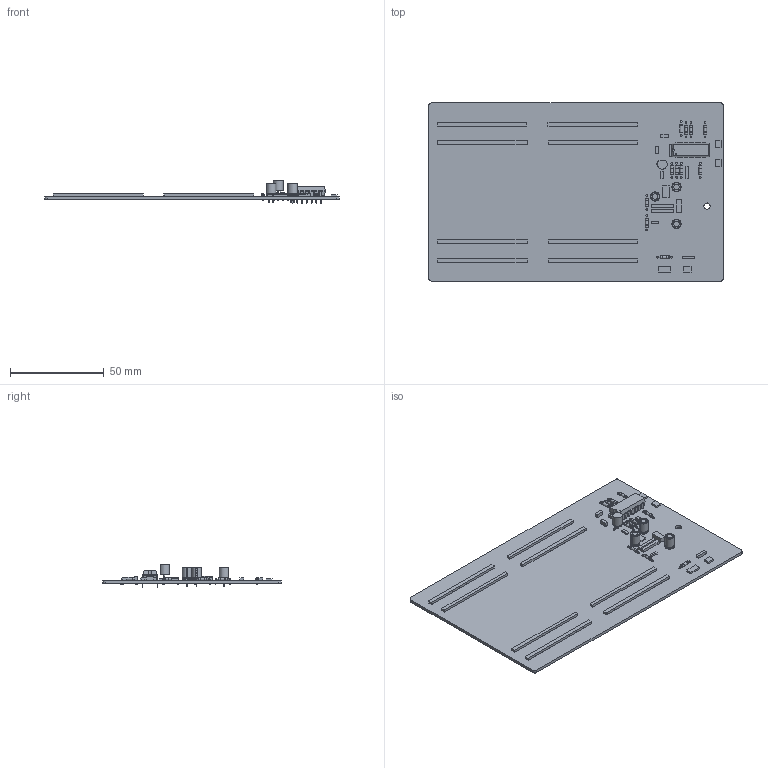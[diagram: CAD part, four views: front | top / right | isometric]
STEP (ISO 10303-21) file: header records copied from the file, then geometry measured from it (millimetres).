
FILE_DESCRIPTION(/* description */ (''),/* implementation_level */ '2;1');
FILE_NAME(/* name */ '622c7c7f-46cd-4ce4-a58c-9a74158d6b3d.stp',/* time_stamp */ '2022-10-23T09:07:28Z',/* author */ (''),/* organization */ (''),/* preprocessor_version */ 'ST-DEVELOPER v19.2',/* originating_system */ 'Autodesk Translation Framework v11.17.0.187',/* authorisation */ '');
FILE_SCHEMA (('AUTOMOTIVE_DESIGN { 1 0 10303 214 3 1 1 }'));
Length unit declared in the file: millimetre
Products named in the file (17): 622c7c7f-46cd-4ce4-a58c-9a74158d6b3d; PCB Component; Board; 10X02MTA; PE; 0,1 uF; 47 uF; 1N4148DO35-7; 10X03MTA; 4093N; TLLG4400; BC447; 0204/7; TO220L1; 1k; 0,1 uF_1; 1N4004
Assembly tree (41 placements, depth 3):
  622c7c7f-46cd-4ce4-a58c-9a74158d6b3d
    PCB Component
      Board
      10X02MTA  x3
      PE  x8
      0,1 uF  x3
      47 uF  x2
      1N4148DO35-7
      10X03MTA
      4093N
      TLLG4400  x2
      BC447
      0204/7  x10
      TO220L1
      1k
      0,1 uF_1  x3
      1N4004  x2
Bounding box: 157 x 95 x 12.4 mm (x, y, z)
Volume: 25811.6 mm3; surface area: 36440.1 mm2
Topology: 42 solids, 42 shells, 920 faces, 2255 edges, 1468 vertices
Faces by surface type: plane 509, cylinder 281, torus 118, cone 12
Full cylindrical faces by diameter (mm): 0.45 x6, 0.5 x40, 0.61 x3, 0.65 x4, 0.762 x1, 0.813 x59, 1.016 x12, 1.118 x4, 1.3 x80, 1.52 x10, 1.6 x20, 1.748 x1, 1.75 x2, 2.9 x3, 3.302 x1, 3.4 x3
Entity records: 19065 total; most frequent: DIRECTION 3150, CARTESIAN_POINT 3081, ORIENTED_EDGE 2906, EDGE_CURVE 1453, AXIS2_PLACEMENT_3D 1084, LINE 982, VECTOR 982, VERTEX_POINT 945
